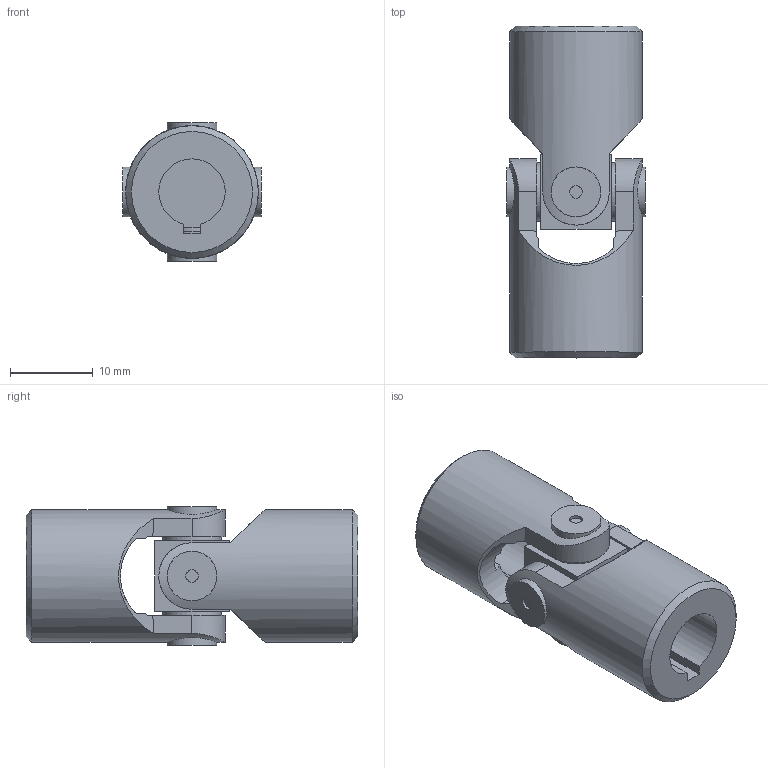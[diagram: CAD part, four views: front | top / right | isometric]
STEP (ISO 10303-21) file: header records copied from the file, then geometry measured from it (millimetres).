
FILE_DESCRIPTION(/* description */ ('EXTENSIBLE TRANSIMISSIONS Series G DIN 808 -2-'),/* implementation_level */ '2;1');
FILE_NAME(/* name */ '\\SRV2016\societa\Stefano\Disegni 3D\Dis. Clienti\0000Catalogo 3D\01Singoli G-GB\SG0S082C.stp',/* time_stamp */ '2021-11-08T14:14:48+01:00',/* author */ ('acquisti'),/* organization */ ('MARIOFERRI'),/* preprocessor_version */ 'ST-DEVELOPER v15.6',/* originating_system */ 'Autodesk Inventor 2015',/* authorisation */ '');
FILE_SCHEMA (('AUTOMOTIVE_DESIGN { 1 0 10303 214 3 1 1 }'));
Length unit declared in the file: millimetre
Products named in the file (3): 01-02G SFE; 02G MOC; Assieme1
Assembly tree (3 placements, depth 2):
  Assieme1
    01-02G SFE
    02G MOC  x2
Bounding box: 16.7 x 40 x 16.7 mm (x, y, z)
Volume: 5431.6 mm3; surface area: 3865.6 mm2
Topology: 3 solids, 3 shells, 78 faces, 198 edges, 136 vertices
Faces by surface type: plane 42, cylinder 22, cone 12, torus 2
Full cylindrical faces by diameter (mm): 1.5 x4, 6 x4, 7 x4, 16 x2
Entity records: 1505 total; most frequent: CARTESIAN_POINT 458, DIRECTION 203, ORIENTED_EDGE 190, EDGE_CURVE 95, AXIS2_PLACEMENT_3D 85, VERTEX_POINT 71, EDGE_LOOP 66, FACE_OUTER_BOUND 46
